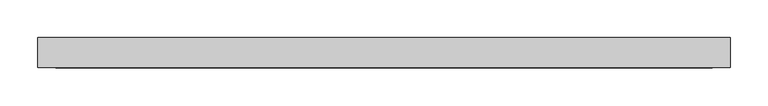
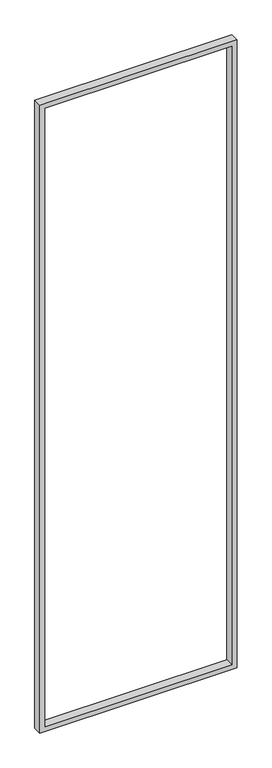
"""IFC4 building model written with IfcOpenShell, lengths in millimetres: plate geometry, Vitré."""

from ifc_helpers import new_model, si_unit, frame, origin, place, context, project, spatial, polyline, outline, extrude, source, transform, mapped, element, save


def plate_1149060b(model_context):
    return source(origin(), model_context, "Body", "SweptSolid", [
        extrude(outline(polyline([(3083.8125, -458.8125), (0.0, -458.8125), (0.0, 458.8125), (3083.8125, 458.8125), (3083.8125, -458.8125)]), holes=[polyline([(3060.0, 435.0), (23.8125, 435.0), (23.8125, -435.0), (3060.0, -435.0), (3060.0, 435.0)])]), frame((0.0, -20.0, 0.0), z_axis=(0.0, 1.0, 0.0), x_axis=(0.0, 0.0, 1.0)), (0.0, 0.0, 1.0), 40.0),
    ])


if __name__ == "__main__":
    model = new_model("IFC4")
    model_context = context("Model", 3, world=origin())
    ifc_project = project(units=[si_unit("LENGTHUNIT", "METRE", prefix="MILLI")], contexts=[model_context])
    site = spatial("IfcSite", under=ifc_project)
    building = spatial("IfcBuilding", under=site)
    placement = place(None, origin())
    plate_shape = plate_1149060b(model_context)
    element("IfcPlate", 1, ObjectType="Vitré", at=placement, inside=building, context=model_context, shape_type="MappedRepresentation", body=[
        mapped(plate_shape, transform((0.0, 0.0, 0.0), x_axis=(1.0, 0.0, 0.0), y_axis=(0.0, 1.0, 0.0), z_axis=(0.0, 0.0, 1.0))),
    ])
    save(model, "model.ifc")
